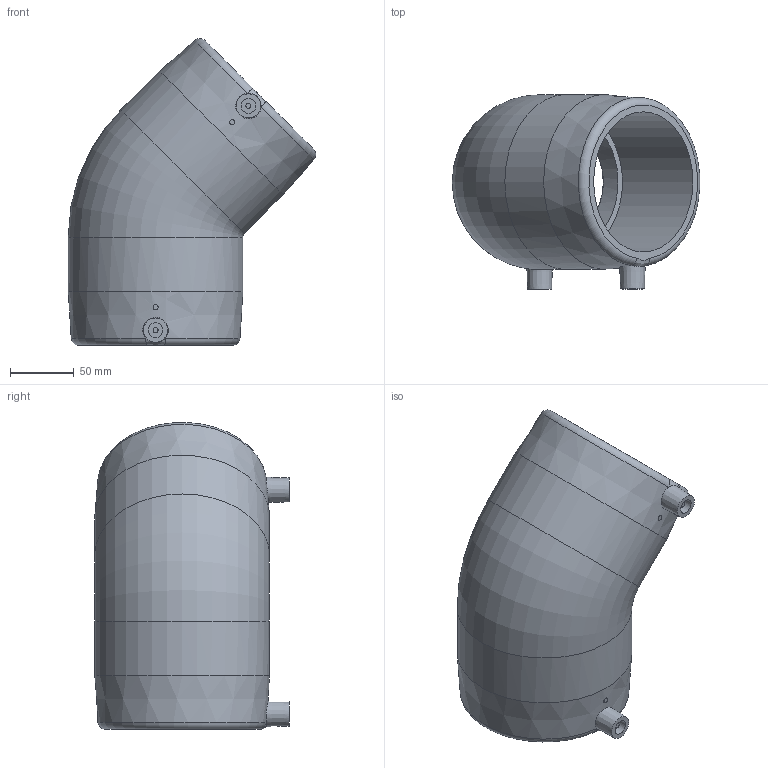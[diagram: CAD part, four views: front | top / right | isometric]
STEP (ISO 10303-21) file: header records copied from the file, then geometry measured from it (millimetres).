
FILE_DESCRIPTION(/* description */ ('Unknown'),/* implementation_level */ '2;1');
FILE_NAME(/* name */ 'GE4P110C',/* time_stamp */ '2021-04-23T16:26:14+02:00',/* author */ ('Unknown'),/* organization */ ('Unknown'),/* preprocessor_version */ 'ST-DEVELOPER v16.7',/* originating_system */ 'Solid Edge',/* authorisation */ 'Unknown');
FILE_SCHEMA (('AUTOMOTIVE_DESIGN {1 0 10303 214 3 1 1}'));
Length unit declared in the file: millimetre
Products named in the file (1): GE4P110C
Bounding box: 194.12 x 152.5 x 240.62 mm (x, y, z)
Volume: 1265306.6 mm3; surface area: 186618.2 mm2
Topology: 1 solids, 1 shells, 34 faces, 74 edges, 50 vertices
Faces by surface type: plane 12, cylinder 12, cone 4, torus 4, bspline 2
Full cylindrical faces by diameter (mm): 4 x4, 11.6 x2, 100 x2, 110 x2, 137 x2
Entity records: 908 total; most frequent: CARTESIAN_POINT 270, DIRECTION 132, ORIENTED_EDGE 90, AXIS2_PLACEMENT_3D 66, EDGE_LOOP 61, FACE_BOUND 61, EDGE_CURVE 45, VERTEX_POINT 38
